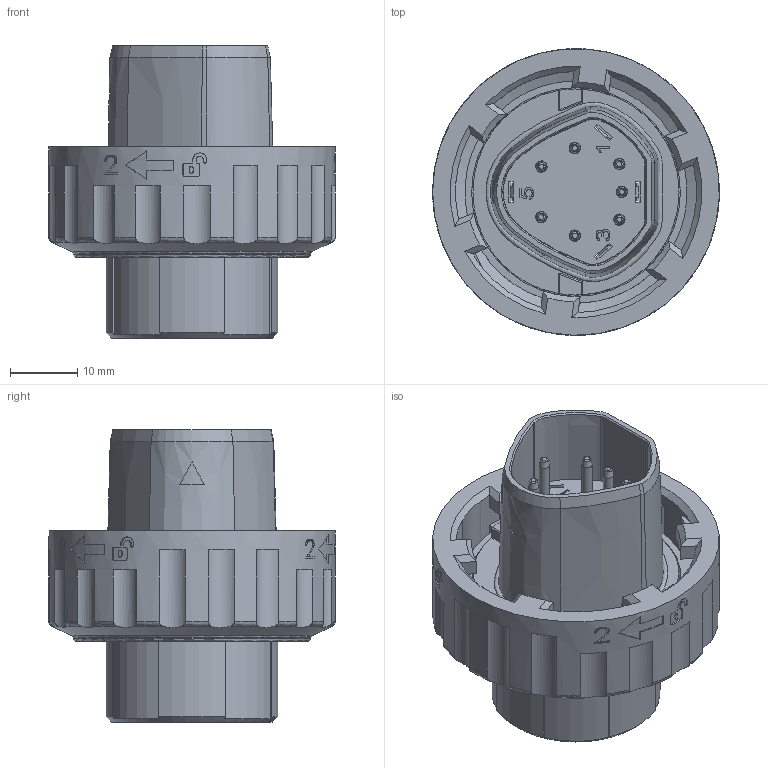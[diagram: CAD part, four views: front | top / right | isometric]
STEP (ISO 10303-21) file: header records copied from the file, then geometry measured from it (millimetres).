
FILE_DESCRIPTION(/* description */ (''),/* implementation_level */ '2;1');
FILE_NAME(/* name */ '00..0.stp',/* time_stamp */ '2023-07-15T15:36:47+08:00',/* author */ (''),/* organization */ (''),/* preprocessor_version */ 'ST-DEVELOPER v16.7',/* originating_system */ 'SIEMENS PLM Software NX 1926',/* authorisation */ '');
FILE_SCHEMA (('AUTOMOTIVE_DESIGN { 1 0 10303 214 3 1 1 1 }'));
Length unit declared in the file: millimetre
Products named in the file (1): 2D_PAW0710C0001_stp
Bounding box: 42.56 x 42.56 x 43.4 mm (x, y, z)
Volume: 30281.5 mm3; surface area: 14829 mm2
Topology: 1 solids, 2 shells, 793 faces, 2196 edges, 1437 vertices
Faces by surface type: plane 352, cylinder 288, cone 54, extrusion 44, torus 36, bspline 19
Full cylindrical faces by diameter (mm): 1.3 x7, 1.5 x7, 1.7 x7, 2.2 x7, 2.5 x7, 2.8 x7, 3 x2, 3.2 x7, 3.5 x1, 4.5 x1, 4.95 x1, 23 x1, 29 x1, 30.6 x1, 31 x1, 35.2 x1, 35.8 x1, 42.56 x1
Entity records: 29719 total; most frequent: CARTESIAN_POINT 9214, ORIENTED_EDGE 4070, DIRECTION 3998, EDGE_CURVE 2035, AXIS2_PLACEMENT_3D 1514, VERTEX_POINT 1372, EDGE_LOOP 970, VECTOR 970
